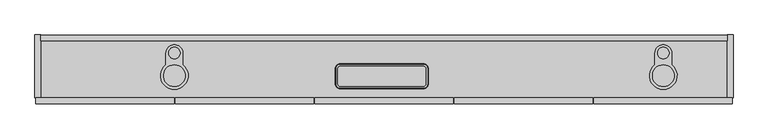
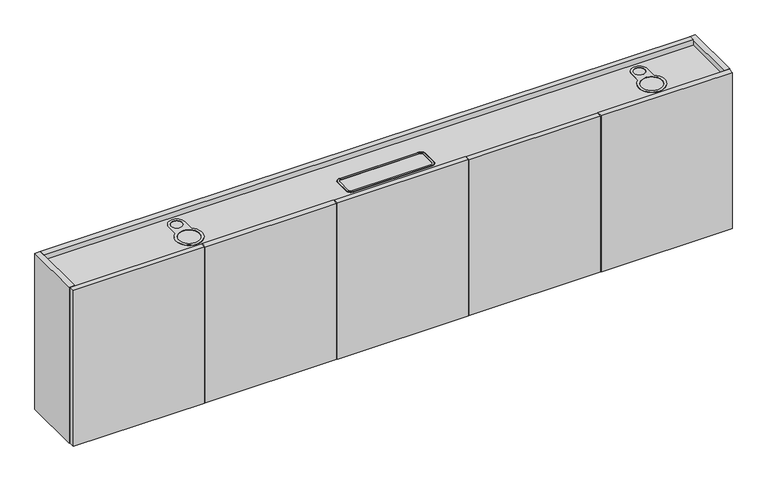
"""IFC4 building model written with IfcOpenShell, lengths in millimetres: furniture geometry, Geiger_GeigerOneCasegoods_UtilityCabinetForUseWithLDeskAccepts2Legs : Vertical Veneer 90Wx 8.875Dx 22.5H."""

from ifc_helpers import new_model, si_unit, point, frame, origin, place, context, project, spatial, polyline, circle_curve, ellipse_curve, trimmed, outline, extrude, faceted_brep, source, transform, mapped, element, save
from ifc_brep_helpers import plane_surface, cylinder_surface, revolved_surface, advanced_brep


def furniture_32e424e9(model_context):
    return source(origin(), model_context, "Body", "SolidModel", [
        extrude(outline(polyline([(456.59876, -225.425), (3.0, -225.425), (3.0, -206.425), (456.59876, -206.425), (456.59876, -225.425)])), frame((0.0, 0.0, 12.7), z_axis=(0.0, 0.0, 1.0), x_axis=(1.0, 0.0, 0.0)), (0.0, 0.0, 1.0), 571.5),
        extrude(outline(polyline([(913.19752, -225.425), (459.59876, -225.425), (459.59876, -206.425), (913.19752, -206.425), (913.19752, -225.425)])), frame((0.0, 0.0, 12.7), z_axis=(0.0, 0.0, 1.0), x_axis=(1.0, 0.0, 0.0)), (0.0, 0.0, 1.0), 571.5),
        extrude(outline(polyline([(1369.79628, -225.425), (916.19752, -225.425), (916.19752, -206.425), (1369.79628, -206.425), (1369.79628, -225.425)])), frame((0.0, 0.0, 12.7), z_axis=(0.0, 0.0, 1.0), x_axis=(1.0, 0.0, 0.0)), (0.0, 0.0, 1.0), 571.5),
        extrude(outline(polyline([(1826.39504, -225.425), (1372.79628, -225.425), (1372.79628, -206.425), (1826.39504, -206.425), (1826.39504, -225.425)])), frame((0.0, 0.0, 12.7), z_axis=(0.0, 0.0, 1.0), x_axis=(1.0, 0.0, 0.0)), (0.0, 0.0, 1.0), 571.5),
        extrude(outline(polyline([(2283.0, -225.425), (1829.39504, -225.425), (1829.39504, -206.425), (2283.0, -206.425), (2283.0, -225.425)])), frame((0.0, 0.0, 12.7), z_axis=(0.0, 0.0, 1.0), x_axis=(1.0, 0.0, 0.0)), (0.0, 0.0, 1.0), 571.5),
        extrude(outline(polyline([(1818.888, -205.425), (1818.888, -19.5), (1837.888, -19.5), (1837.888, -205.425), (1818.888, -205.425)])), frame((0.0, 0.0, 12.7), z_axis=(0.0, 0.0, 1.0), x_axis=(1.0, 0.0, 0.0)), (0.0, 0.0, 1.0), 533.5),
        faceted_brep([(2267.0, -19.5, 584.2), (2267.0, -19.5, 29.0), (2267.0, -0.5, 29.0), (2267.0, -0.5, 584.2), (2267.0, -204.925, 156.0), (2267.0, -204.925, 29.0), (2267.0, -185.925, 29.0), (2267.0, -185.925, 156.0), (19.0, -19.5, 584.2), (19.0, -0.5, 584.2), (19.0, -0.5, 29.0), (19.0, -19.5, 29.0), (19.0, -204.925, 156.0), (19.0, -185.925, 156.0), (19.0, -185.925, 29.0), (19.0, -204.925, 29.0), (905.0992, -19.5, 29.0), (905.0992, -19.5, 546.2), (924.0992, -19.5, 546.2), (924.0992, -19.5, 29.0), (905.0992, -185.925, 29.0), (905.0992, -204.5, 29.0), (924.0992, -204.5, 29.0), (924.0992, -185.925, 29.0), (924.0992, -185.925, 156.0), (905.0992, -185.925, 156.0), (924.0992, -204.5, 156.0), (905.0992, -204.5, 156.0), (905.0992, -204.5, 546.2), (905.0992, -19.5, 12.7), (905.0992, -204.5, 12.7), (924.0992, -204.5, 12.7), (924.0992, -19.5, 12.7), (924.0992, -204.5, 546.2)], [[[0, 1, 2, 3]], [[4, 5, 6, 7]], [[8, 9, 10, 11]], [[12, 13, 14, 15]], [[1, 0, 8, 11, 16, 17, 18, 19]], [[2, 1, 19, 16, 11, 10]], [[3, 2, 10, 9]], [[0, 3, 9, 8]], [[5, 4, 12, 15]], [[6, 5, 15, 14, 20, 21, 22, 23]], [[7, 6, 23, 24]], [[14, 13, 25, 20]], [[4, 7, 24, 26, 27, 25, 13, 12]], [[28, 17, 16, 29, 30, 21, 20, 25, 27]], [[31, 32, 19, 18, 33, 26, 24, 23, 22]], [[30, 31, 22, 21]], [[33, 28, 27, 26]], [[17, 28, 33, 18]], [[32, 29, 16, 19]], [[30, 29, 32, 31]]]),
        extrude(outline(polyline([(2267.0, -19.5), (2267.0, -205.425), (19.0, -205.425), (19.0, -19.5), (2267.0, -19.5)])), frame((0.0, 0.0, 546.2), z_axis=(0.0, 0.0, 1.0), x_axis=(1.0, 0.0, 0.0)), (0.0, 0.0, 1.0), 19.0),
        extrude(outline(polyline([(19.0, -205.425), (0.0, -205.425), (0.0, 0.0), (19.0, 0.0), (19.0, -205.425)])), frame((0.0, 0.0, 12.7), z_axis=(0.0, 0.0, 1.0), x_axis=(1.0, 0.0, 0.0)), (0.0, 0.0, 1.0), 571.5),
        extrude(outline(polyline([(2286.0, -205.425), (2267.0, -205.425), (2267.0, 0.0), (2286.0, 0.0), (2286.0, -205.425)])), frame((0.0, 0.0, 12.7), z_axis=(0.0, 0.0, 1.0), x_axis=(1.0, 0.0, 0.0)), (0.0, 0.0, 1.0), 571.5),
        advanced_brep(
        [(984.7107563, -110.825, 566.7), (999.8904, -95.6453563, 566.7), (999.8904, -94.4172964, 565.2), (983.4826964, -110.825, 565.2), (983.4826964, -160.025, 565.2), (984.7107563, -160.025, 566.7), (999.8904, -176.4327036, 565.2), (999.8904, -175.2046437, 566.7), (1272.0904, -176.4327036, 565.2), (1272.0904, -175.2046437, 566.7), (1288.4981036, -160.025, 565.2), (1287.2700437, -160.025, 566.7), (1288.4981036, -110.825, 565.2), (1287.2700437, -110.825, 566.7), (1272.0904, -94.4172964, 565.2), (1272.0904, -95.6453563, 566.7), (999.8904, -102.925, 566.7), (1272.0904, -102.925, 566.7), (1279.9904, -110.825, 566.7), (1279.9904, -160.025, 566.7), (1272.0904, -167.925, 566.7), (999.8904, -167.925, 566.7), (991.9904, -160.025, 566.7), (991.9904, -110.825, 566.7), (991.9904, -110.825, 566.001635), (999.8904, -102.925, 566.001635), (991.9904, -160.025, 566.001635), (999.8904, -167.925, 566.001635), (1272.0904, -167.925, 566.001635), (1279.9904, -160.025, 566.001635), (1279.9904, -110.825, 566.001635), (1272.0904, -102.925, 566.001635)],
        [
            (0, 1, circle_curve(frame((999.8904, -110.825, 566.7), z_axis=(0.0, 0.0, -1.0), x_axis=(0.0, 1.0, 0.0)), 15.1796437)),
            (1, 2, circle_curve(frame((999.8904, -95.6453563, 565.4472896), z_axis=(-1.0, 0.0, 0.0), x_axis=(0.0, -1.0, 0.0)), 1.2527104)),
            (2, 3, circle_curve(frame((999.8904, -110.825, 565.2), z_axis=(0.0, 0.0, 1.0), x_axis=(0.0, 1.0, 0.0)), 16.4077036)),
            (3, 0, circle_curve(frame((984.7107563, -110.825, 565.4472896), z_axis=(0.0, 1.0, 0.0), x_axis=(1.0, 0.0, 0.0)), 1.2527104)),
            (3, 4),
            (4, 5, circle_curve(frame((984.7107563, -160.025, 565.4472896), z_axis=(0.0, 1.0, 0.0), x_axis=(1.0, 0.0, 0.0)), 1.2527104)),
            (5, 0),
            (4, 6, circle_curve(frame((999.8904, -160.025, 565.2), z_axis=(0.0, 0.0, 1.0), x_axis=(-1.0, 0.0, 0.0)), 16.4077036)),
            (6, 7, circle_curve(frame((999.8904, -175.2046437, 565.4472896), z_axis=(-1.0, 0.0, 0.0), x_axis=(0.0, 1.0, 0.0)), 1.2527104)),
            (7, 5, circle_curve(frame((999.8904, -160.025, 566.7), z_axis=(0.0, 0.0, -1.0), x_axis=(-1.0, 0.0, 0.0)), 15.1796437)),
            (6, 8),
            (8, 9, circle_curve(frame((1272.0904, -175.2046437, 565.4472896), z_axis=(-1.0, 0.0, 0.0), x_axis=(0.0, 1.0, 0.0)), 1.2527104)),
            (9, 7),
            (8, 10, circle_curve(frame((1272.0904, -160.025, 565.2), z_axis=(0.0, 0.0, 1.0), x_axis=(0.0, -1.0, 0.0)), 16.4077036)),
            (10, 11, circle_curve(frame((1287.2700437, -160.025, 565.4472896), z_axis=(0.0, -1.0, 0.0), x_axis=(-1.0, 0.0, 0.0)), 1.2527104)),
            (11, 9, circle_curve(frame((1272.0904, -160.025, 566.7), z_axis=(0.0, 0.0, -1.0), x_axis=(0.0, -1.0, 0.0)), 15.1796437)),
            (10, 12),
            (12, 13, circle_curve(frame((1287.2700437, -110.825, 565.4472896), z_axis=(0.0, -1.0, 0.0), x_axis=(-1.0, 0.0, 0.0)), 1.2527104)),
            (13, 11),
            (12, 14, circle_curve(frame((1272.0904, -110.825, 565.2), z_axis=(0.0, 0.0, 1.0), x_axis=(1.0, 0.0, 0.0)), 16.4077036)),
            (14, 15, circle_curve(frame((1272.0904, -95.6453563, 565.4472896), z_axis=(1.0, 0.0, 0.0), x_axis=(0.0, -1.0, 0.0)), 1.2527104)),
            (15, 13, circle_curve(frame((1272.0904, -110.825, 566.7), z_axis=(0.0, 0.0, -1.0), x_axis=(1.0, 0.0, 0.0)), 15.1796437)),
            (1, 15),
            (14, 2),
            (16, 17),
            (17, 18, circle_curve(frame((1272.0904, -110.825, 566.7), z_axis=(0.0, 0.0, -1.0), x_axis=(1.0, 0.0, 0.0)), 7.9)),
            (18, 19),
            (19, 20, circle_curve(frame((1272.0904, -160.025, 566.7), z_axis=(0.0, 0.0, -1.0), x_axis=(0.0, -1.0, 0.0)), 7.9)),
            (20, 21),
            (21, 22, circle_curve(frame((999.8904, -160.025, 566.7), z_axis=(0.0, 0.0, -1.0), x_axis=(-1.0, 0.0, 0.0)), 7.9)),
            (22, 23),
            (23, 16, circle_curve(frame((999.8904, -110.825, 566.7), z_axis=(0.0, 0.0, -1.0), x_axis=(0.0, 1.0, 0.0)), 7.9)),
            (23, 24),
            (24, 25, circle_curve(frame((999.8904, -110.825, 566.001635), z_axis=(0.0, 0.0, -1.0), x_axis=(0.0, 1.0, 0.0)), 7.9)),
            (25, 16),
            (22, 26),
            (26, 24),
            (21, 27),
            (27, 26, circle_curve(frame((999.8904, -160.025, 566.001635), z_axis=(0.0, 0.0, -1.0), x_axis=(-1.0, 0.0, 0.0)), 7.9)),
            (20, 28),
            (28, 27),
            (19, 29),
            (29, 28, circle_curve(frame((1272.0904, -160.025, 566.001635), z_axis=(0.0, 0.0, -1.0), x_axis=(0.0, -1.0, 0.0)), 7.9)),
            (18, 30),
            (30, 29),
            (17, 31),
            (31, 30, circle_curve(frame((1272.0904, -110.825, 566.001635), z_axis=(0.0, 0.0, -1.0), x_axis=(1.0, 0.0, 0.0)), 7.9)),
            (25, 31),
        ],
        [
            revolved_surface(trimmed(ellipse_curve(frame((999.8904, -95.6453563, 565.4472896), z_axis=(1.0, 0.0, 0.0), x_axis=(0.0, -1.0, 0.0)), 1.2527104, 1.2527104), [point((999.8904, -94.4172964, 565.2))], [point((999.8904, -95.6453563, 566.7))], True, "CARTESIAN"), (999.8904, -110.825, 565.2), (0.0, 0.0, 1.0)),
            cylinder_surface(frame((984.7107563, -110.825, 565.4472896), z_axis=(0.0, 1.0, 0.0), x_axis=(1.0, 0.0, 0.0)), 1.2527104),
            revolved_surface(trimmed(ellipse_curve(frame((984.7107563, -160.025, 565.4472896), z_axis=(0.0, 1.0, 0.0), x_axis=(1.0, 0.0, 0.0)), 1.2527104, 1.2527104), [point((983.4826964, -160.025, 565.2))], [point((984.7107563, -160.025, 566.7))], True, "CARTESIAN"), (999.8904, -160.025, 565.2), (0.0, 0.0, 1.0)),
            cylinder_surface(frame((999.8904, -175.2046437, 565.4472896), z_axis=(-1.0, 0.0, 0.0), x_axis=(0.0, 1.0, 0.0)), 1.2527104),
            revolved_surface(trimmed(ellipse_curve(frame((1272.0904, -175.2046437, 565.4472896), z_axis=(-1.0, 0.0, 0.0), x_axis=(0.0, 1.0, 0.0)), 1.2527104, 1.2527104), [point((1272.0904, -176.4327036, 565.2))], [point((1272.0904, -175.2046437, 566.7))], True, "CARTESIAN"), (1272.0904, -160.025, 565.2), (0.0, 0.0, 1.0)),
            cylinder_surface(frame((1287.2700437, -160.025, 565.4472896), z_axis=(0.0, -1.0, 0.0), x_axis=(-1.0, 0.0, 0.0)), 1.2527104),
            revolved_surface(trimmed(ellipse_curve(frame((1287.2700437, -110.825, 565.4472896), z_axis=(0.0, -1.0, 0.0), x_axis=(-1.0, 0.0, 0.0)), 1.2527104, 1.2527104), [point((1288.4981036, -110.825, 565.2))], [point((1287.2700437, -110.825, 566.7))], True, "CARTESIAN"), (1272.0904, -110.825, 565.2), (0.0, 0.0, 1.0)),
            cylinder_surface(frame((1272.0904, -95.6453563, 565.4472896), z_axis=(1.0, 0.0, 0.0), x_axis=(0.0, -1.0, 0.0)), 1.2527104),
            plane_surface(frame((1272.0904, -95.6453563, 566.7), z_axis=(0.0, 0.0, 1.0), x_axis=(-1.0, 0.0, 0.0))),
            revolved_surface(polyline([(999.8904, -102.925, 566.7), (999.8904, -102.925, 566.001635)]), (999.8904, -110.825, 565.2), (0.0, 0.0, 1.0)),
            plane_surface(frame((991.9904, -110.825, 566.7), z_axis=(1.0, 0.0, 0.0), x_axis=(0.0, -1.0, 0.0))),
            revolved_surface(polyline([(991.9904, -160.025, 566.7), (991.9904, -160.025, 566.001635)]), (999.8904, -160.025, 565.2), (0.0, 0.0, 1.0)),
            plane_surface(frame((999.8904, -167.925, 566.7), z_axis=(0.0, 1.0, 0.0), x_axis=(1.0, 0.0, 0.0))),
            revolved_surface(polyline([(1272.0904, -167.925, 566.7), (1272.0904, -167.925, 566.001635)]), (1272.0904, -160.025, 565.2), (0.0, 0.0, 1.0)),
            plane_surface(frame((1279.9904, -160.025, 566.7), z_axis=(-1.0, 0.0, 0.0), x_axis=(0.0, 1.0, 0.0))),
            revolved_surface(polyline([(1279.9904000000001, -110.825, 566.7), (1279.9904000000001, -110.825, 566.001635)]), (1272.0904, -110.825, 565.2), (0.0, 0.0, 1.0)),
            plane_surface(frame((1272.0904, -102.925, 566.7), z_axis=(0.0, -1.0, 0.0), x_axis=(-1.0, 0.0, 0.0))),
            plane_surface(frame((1272.0904, -102.925, 565.2), z_axis=(0.0, 0.0, -1.0), x_axis=(-1.0, 0.0, 0.0))),
            plane_surface(frame((999.8904, -102.925, 566.001635), z_axis=(0.0, 0.0, 1.0), x_axis=(-1.0, 0.0, 0.0))),
        ],
        [
            (0, [[1, 2, 3, 4]]),
            (1, [[-4, 5, 6, 7]]),
            (2, [[-6, 8, 9, 10]]),
            (3, [[-9, 11, 12, 13]]),
            (4, [[-12, 14, 15, 16]]),
            (5, [[-15, 17, 18, 19]]),
            (6, [[-18, 20, 21, 22]]),
            (7, [[-2, 23, -21, 24]]),
            (8, [[-1, -7, -10, -13, -16, -19, -22, -23], [25, 26, 27, 28, 29, 30, 31, 32]]),
            (9, [[-32, 33, 34, 35]]),
            (10, [[-31, 36, 37, -33]]),
            (11, [[-30, 38, 39, -36]]),
            (12, [[-29, 40, 41, -38]]),
            (13, [[-28, 42, 43, -40]]),
            (14, [[-27, 44, 45, -42]]),
            (15, [[-26, 46, 47, -44]]),
            (16, [[-25, -35, 48, -46]]),
            (17, [[-3, -24, -20, -17, -14, -11, -8, -5]]),
            (18, [[-34, -37, -39, -41, -43, -45, -47, -48]]),
        ],
    ),
        advanced_brep(
        [(484.015, -97.7340661, 565.2), (429.015, -97.7340661, 565.2), (429.015, -59.2643843, 565.2), (484.015, -59.2643843, 565.2), (484.015, -97.7340661, 566.8), (484.015, -59.2643843, 566.8), (429.015, -59.2643843, 566.8), (429.015, -97.7340661, 566.8), (456.515, -78.1957393, 566.8), (456.515, -40.3330294, 566.8), (456.515, -168.9040899, 566.8), (456.515, -98.0446387, 566.8), (456.515, -78.1957393, 566.001635), (456.515, -40.3330294, 566.001635), (456.515, -168.9040899, 566.001635), (456.515, -98.0446387, 566.001635)],
        [
            (0, 1, circle_curve(frame((456.515, -133.4743643, 565.2), z_axis=(0.0, 0.0, -1.0), x_axis=(0.0, 1.0, 0.0)), 45.095664)),
            (1, 2),
            (2, 3, circle_curve(frame((456.515, -59.2643843, 565.2), z_axis=(0.0, 0.0, -1.0), x_axis=(0.0, 1.0, 0.0)), 27.5)),
            (3, 0),
            (4, 5),
            (5, 6, circle_curve(frame((456.515, -59.2643843, 566.8), z_axis=(0.0, 0.0, 1.0), x_axis=(0.0, 1.0, 0.0)), 27.5)),
            (6, 7),
            (7, 4, circle_curve(frame((456.515, -133.4743643, 566.8), z_axis=(0.0, 0.0, 1.0), x_axis=(0.0, 1.0, 0.0)), 45.095664)),
            (8, 9, circle_curve(frame((456.515, -59.2643843, 566.8), z_axis=(0.0, 0.0, -1.0), x_axis=(0.0, 1.0, 0.0)), 18.931355)),
            (9, 8, circle_curve(frame((456.515, -59.2643843, 566.8), z_axis=(0.0, 0.0, -1.0), x_axis=(0.0, 1.0, 0.0)), 18.931355)),
            (10, 11, circle_curve(frame((456.515, -133.4743643, 566.8), z_axis=(0.0, 0.0, -1.0), x_axis=(0.0, 1.0, 0.0)), 35.4297256)),
            (11, 10, circle_curve(frame((456.515, -133.4743643, 566.8), z_axis=(0.0, 0.0, -1.0), x_axis=(0.0, 1.0, 0.0)), 35.4297256)),
            (3, 5),
            (4, 0),
            (2, 6),
            (1, 7),
            (8, 12),
            (12, 13, circle_curve(frame((456.515, -59.2643843, 566.001635), z_axis=(0.0, 0.0, -1.0), x_axis=(0.0, 1.0, 0.0)), 18.931355)),
            (13, 9),
            (13, 12, circle_curve(frame((456.515, -59.2643843, 566.001635), z_axis=(0.0, 0.0, -1.0), x_axis=(0.0, 1.0, 0.0)), 18.931355)),
            (10, 14),
            (14, 15, circle_curve(frame((456.515, -133.4743643, 566.001635), z_axis=(0.0, 0.0, -1.0), x_axis=(0.0, 1.0, 0.0)), 35.4297256)),
            (15, 11),
            (15, 14, circle_curve(frame((456.515, -133.4743643, 566.001635), z_axis=(0.0, 0.0, -1.0), x_axis=(0.0, 1.0, 0.0)), 35.4297256)),
        ],
        [
            plane_surface(frame((456.515, -185.925, 565.2), z_axis=(0.0, 0.0, -1.0), x_axis=(-1.0, 0.0, 0.0))),
            plane_surface(frame((456.515, -185.925, 566.8), z_axis=(0.0, 0.0, 1.0), x_axis=(-1.0, 0.0, 0.0))),
            plane_surface(frame((484.015, -59.2643843, 565.2), z_axis=(1.0, 0.0, 0.0), x_axis=(0.0, 0.0, 1.0))),
            cylinder_surface(frame((456.515, -59.2643843, 565.2), z_axis=(0.0, 0.0, -1.0), x_axis=(0.0, 1.0, 0.0)), 27.5),
            plane_surface(frame((429.015, -97.7340661, 565.2), z_axis=(-1.0, 0.0, 0.0), x_axis=(0.0, 0.0, 1.0))),
            cylinder_surface(frame((456.515, -133.4743643, 565.2), z_axis=(0.0, 0.0, -1.0), x_axis=(0.0, 1.0, 0.0)), 45.095664),
            revolved_surface(polyline([(456.515, -40.33302930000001, 566.8), (456.515, -40.33302930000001, 566.001635)]), (456.515, -59.2643843, 565.2), (0.0, 0.0, 1.0)),
            revolved_surface(polyline([(456.515, -98.0446387, 566.8), (456.515, -98.0446387, 566.001635)]), (456.515, -133.4743643, 565.2), (0.0, 0.0, 1.0)),
            plane_surface(frame((437.583645, -59.2643843, 566.001635), z_axis=(0.0, 0.0, 1.0), x_axis=(0.0, -1.0, 0.0))),
        ],
        [
            (0, [[1, 2, 3, 4]]),
            (1, [[5, 6, 7, 8], [9, 10], [11, 12]]),
            (2, [[-4, 13, -5, 14]]),
            (3, [[-3, 15, -6, -13]]),
            (4, [[-2, 16, -7, -15]]),
            (5, [[-1, -14, -8, -16]]),
            (6, [[-9, 17, 18, 19]]),
            (6, [[-10, -19, 20, -17]]),
            (7, [[-11, 21, 22, 23]]),
            (7, [[-12, -23, 24, -21]]),
            (8, [[-18, -20]]),
            (8, [[-22, -24]]),
        ],
    ),
        advanced_brep(
        [(2029.95, -97.7340661, 565.2), (2029.95, -59.2643843, 565.2), (2084.95, -59.2643843, 565.2), (2084.95, -97.7340661, 565.2), (2029.95, -97.7340661, 566.8), (2084.95, -97.7340661, 566.8), (2084.95, -59.2643843, 566.8), (2029.95, -59.2643843, 566.8), (2057.45, -40.3330294, 566.8), (2057.45, -78.1957393, 566.8), (2057.45, -98.0446387, 566.8), (2057.45, -168.9040899, 566.8), (2057.45, -78.1957393, 566.1909845), (2057.45, -40.3330294, 566.1909845), (2057.45, -168.9040899, 566.1909845), (2057.45, -98.0446387, 566.1909845)],
        [
            (0, 1),
            (1, 2, circle_curve(frame((2057.45, -59.2643843, 565.2), z_axis=(0.0, 0.0, -1.0), x_axis=(0.0, -1.0, 0.0)), 27.5)),
            (2, 3),
            (3, 0, circle_curve(frame((2057.45, -133.4743643, 565.2), z_axis=(0.0, 0.0, -1.0), x_axis=(0.0, -1.0, 0.0)), 45.095664)),
            (4, 5, circle_curve(frame((2057.45, -133.4743643, 566.8), z_axis=(0.0, 0.0, 1.0), x_axis=(0.0, -1.0, 0.0)), 45.095664)),
            (5, 6),
            (6, 7, circle_curve(frame((2057.45, -59.2643843, 566.8), z_axis=(0.0, 0.0, 1.0), x_axis=(0.0, -1.0, 0.0)), 27.5)),
            (7, 4),
            (8, 9, circle_curve(frame((2057.45, -59.2643843, 566.8), z_axis=(0.0, 0.0, -1.0), x_axis=(0.0, -1.0, 0.0)), 18.931355)),
            (9, 8, circle_curve(frame((2057.45, -59.2643843, 566.8), z_axis=(0.0, 0.0, -1.0), x_axis=(0.0, -1.0, 0.0)), 18.931355)),
            (10, 11, circle_curve(frame((2057.45, -133.4743643, 566.8), z_axis=(0.0, 0.0, -1.0), x_axis=(0.0, -1.0, 0.0)), 35.4297256)),
            (11, 10, circle_curve(frame((2057.45, -133.4743643, 566.8), z_axis=(0.0, 0.0, -1.0), x_axis=(0.0, -1.0, 0.0)), 35.4297256)),
            (0, 4),
            (7, 1),
            (6, 2),
            (5, 3),
            (9, 12),
            (12, 13, circle_curve(frame((2057.45, -59.2643843, 566.1909845), z_axis=(0.0, 0.0, -1.0), x_axis=(0.0, -1.0, 0.0)), 18.931355)),
            (13, 8),
            (13, 12, circle_curve(frame((2057.45, -59.2643843, 566.1909845), z_axis=(0.0, 0.0, -1.0), x_axis=(0.0, -1.0, 0.0)), 18.931355)),
            (11, 14),
            (14, 15, circle_curve(frame((2057.45, -133.4743643, 566.1909845), z_axis=(0.0, 0.0, -1.0), x_axis=(0.0, -1.0, 0.0)), 35.4297256)),
            (15, 10),
            (15, 14, circle_curve(frame((2057.45, -133.4743643, 566.1909845), z_axis=(0.0, 0.0, -1.0), x_axis=(0.0, -1.0, 0.0)), 35.4297256)),
        ],
        [
            plane_surface(frame((2057.45, -185.925, 565.2), z_axis=(0.0, 0.0, -1.0), x_axis=(1.0, 0.0, 0.0))),
            plane_surface(frame((2057.45, -185.925, 566.8), z_axis=(0.0, 0.0, 1.0), x_axis=(1.0, 0.0, 0.0))),
            plane_surface(frame((2029.95, -97.7340661, 565.2), z_axis=(-1.0, 0.0, 0.0), x_axis=(0.0, 0.0, 1.0))),
            cylinder_surface(frame((2057.45, -59.2643843, 565.2), z_axis=(0.0, 0.0, -1.0), x_axis=(0.0, -1.0, 0.0)), 27.5),
            plane_surface(frame((2084.95, -59.2643843, 565.2), z_axis=(1.0, 0.0, 0.0), x_axis=(0.0, 0.0, 1.0))),
            cylinder_surface(frame((2057.45, -133.4743643, 565.2), z_axis=(0.0, 0.0, -1.0), x_axis=(0.0, -1.0, 0.0)), 45.095664),
            revolved_surface(polyline([(2057.45, -78.1957393, 566.8), (2057.45, -78.1957393, 566.1909845)]), (2057.45, -59.2643843, 565.2), (0.0, 0.0, 1.0)),
            revolved_surface(polyline([(2057.45, -168.90408989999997, 566.8), (2057.45, -168.90408989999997, 566.1909845)]), (2057.45, -133.4743643, 565.2), (0.0, 0.0, 1.0)),
            plane_surface(frame((2038.518645, -59.2643843, 566.1909845), z_axis=(0.0, 0.0, 1.0), x_axis=(0.0, -1.0, 0.0))),
        ],
        [
            (0, [[1, 2, 3, 4]]),
            (1, [[5, 6, 7, 8], [9, 10], [11, 12]]),
            (2, [[-1, 13, -8, 14]]),
            (3, [[-2, -14, -7, 15]]),
            (4, [[-3, -15, -6, 16]]),
            (5, [[-4, -16, -5, -13]]),
            (6, [[-10, 17, 18, 19]]),
            (6, [[-9, -19, 20, -17]]),
            (7, [[-12, 21, 22, 23]]),
            (7, [[-11, -23, 24, -21]]),
            (8, [[-18, -20]]),
            (8, [[-22, -24]]),
        ],
    ),
    ])


if __name__ == "__main__":
    model = new_model("IFC4")
    model_context = context("Model", 3, world=origin())
    ifc_project = project(units=[si_unit("LENGTHUNIT", "METRE", prefix="MILLI")], contexts=[model_context])
    site = spatial("IfcSite", under=ifc_project)
    building = spatial("IfcBuilding", under=site)
    placement = place(None, origin())
    furniture_shape = furniture_32e424e9(model_context)
    element("IfcFurniture", 1, ObjectType="Geiger_GeigerOneCasegoods_UtilityCabinetForUseWithLDeskAccepts2Legs : Vertical Veneer 90Wx 8.875Dx 22.5H", at=placement, inside=building, context=model_context, shape_type="MappedRepresentation", body=[
        mapped(furniture_shape, transform((0.0, 0.0, 0.0), x_axis=(1.0, 0.0, 0.0), y_axis=(0.0, 1.0, 0.0), z_axis=(0.0, 0.0, 1.0))),
    ])
    save(model, "model.ifc")
